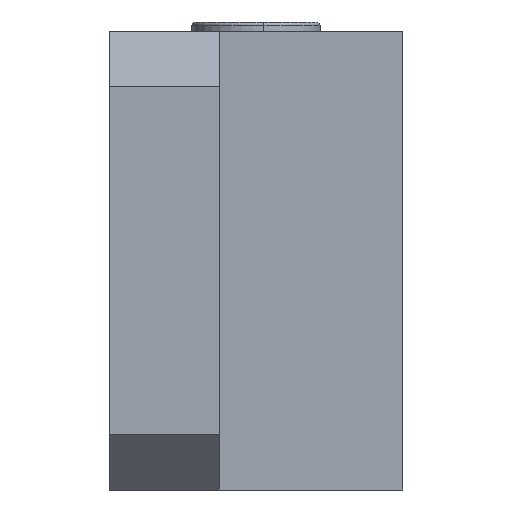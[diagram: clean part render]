
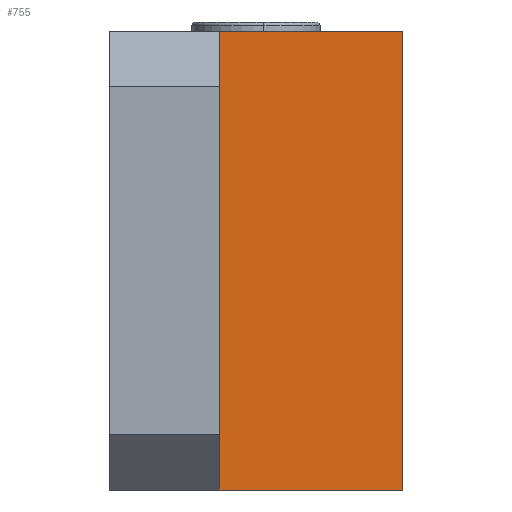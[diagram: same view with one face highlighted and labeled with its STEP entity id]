
A CAD part, left-side view. The second image highlights one B-rep face of the part: STEP entity #755.
In plain terms, the highlighted planar face has unit normal (-1, 0, 0).
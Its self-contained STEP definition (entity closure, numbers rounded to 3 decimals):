
#180 = DIRECTION ( 'NONE',  ( 0., 0., 1. ) ) ;
#395 = EDGE_LOOP ( 'NONE', ( #9485, #9130, #7395, #4456 ) ) ;
#559 = CARTESIAN_POINT ( 'NONE',  ( 5.695, -3.376, -12.5 ) ) ;
#755 = ADVANCED_FACE ( 'NONE', ( #4542 ), #8249, .F. ) ;
#1769 = LINE ( 'NONE', #12030, #9048 ) ;
#1866 = VERTEX_POINT ( 'NONE', #7362 ) ;
#2218 = DIRECTION ( 'NONE',  ( 0., -1., 0. ) ) ;
#2335 = EDGE_CURVE ( 'NONE', #1866, #7022, #11443, .T. ) ;
#2707 = VERTEX_POINT ( 'NONE', #11960 ) ;
#2805 = DIRECTION ( 'NONE',  ( 0., 0., -1. ) ) ;
#3061 = LINE ( 'NONE', #3182, #9666 ) ;
#3182 = CARTESIAN_POINT ( 'NONE',  ( 5.695, 1.624, 0. ) ) ;
#4085 = DIRECTION ( 'NONE',  ( 1., 0., 0. ) ) ;
#4152 = DIRECTION ( 'NONE',  ( 0., 0., -1. ) ) ;
#4456 = ORIENTED_EDGE ( 'NONE', *, *, #2335, .F. ) ;
#4542 = FACE_OUTER_BOUND ( 'NONE', #395, .T. ) ;
#4618 = VECTOR ( 'NONE', #5922, 1000. ) ;
#4935 = LINE ( 'NONE', #8820, #11377 ) ;
#5691 = EDGE_CURVE ( 'NONE', #2707, #9828, #4935, .T. ) ;
#5835 = EDGE_CURVE ( 'NONE', #9828, #1866, #1769, .T. ) ;
#5922 = DIRECTION ( 'NONE',  ( 0., 1., 0. ) ) ;
#6136 = CARTESIAN_POINT ( 'NONE',  ( 5.695, 1.624, -12.5 ) ) ;
#6684 = CARTESIAN_POINT ( 'NONE',  ( 5.695, -8.376, 12.5 ) ) ;
#7022 = VERTEX_POINT ( 'NONE', #6136 ) ;
#7362 = CARTESIAN_POINT ( 'NONE',  ( 5.695, -8.376, -12.5 ) ) ;
#7395 = ORIENTED_EDGE ( 'NONE', *, *, #9016, .F. ) ;
#8249 = PLANE ( 'NONE',  #10148 ) ;
#8820 = CARTESIAN_POINT ( 'NONE',  ( 5.695, -0.376, 12.5 ) ) ;
#9016 = EDGE_CURVE ( 'NONE', #7022, #2707, #3061, .T. ) ;
#9048 = VECTOR ( 'NONE', #2805, 1000. ) ;
#9130 = ORIENTED_EDGE ( 'NONE', *, *, #5691, .F. ) ;
#9485 = ORIENTED_EDGE ( 'NONE', *, *, #5835, .F. ) ;
#9666 = VECTOR ( 'NONE', #180, 1000. ) ;
#9828 = VERTEX_POINT ( 'NONE', #6684 ) ;
#10148 = AXIS2_PLACEMENT_3D ( 'NONE', #10463, #4085, #4152 ) ;
#10463 = CARTESIAN_POINT ( 'NONE',  ( 5.695, -8.376, 12.5 ) ) ;
#11377 = VECTOR ( 'NONE', #2218, 1000. ) ;
#11443 = LINE ( 'NONE', #559, #4618 ) ;
#11960 = CARTESIAN_POINT ( 'NONE',  ( 5.695, 1.624, 12.5 ) ) ;
#12030 = CARTESIAN_POINT ( 'NONE',  ( 5.695, -8.376, 0. ) ) ;
